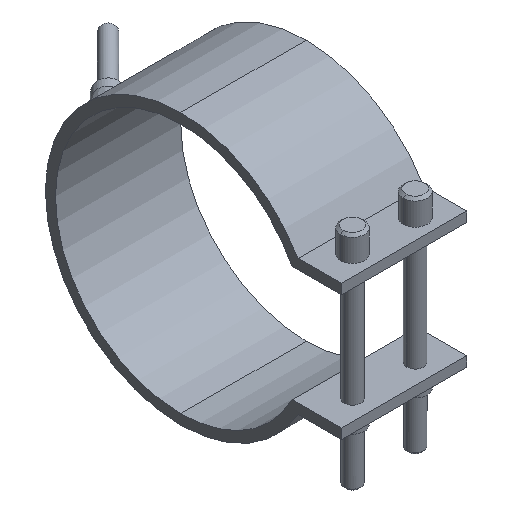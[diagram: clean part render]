
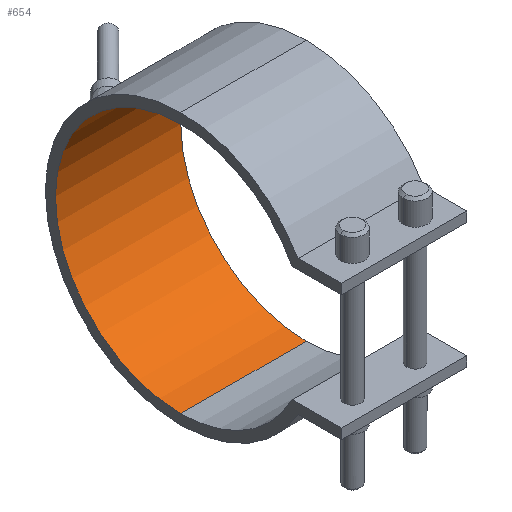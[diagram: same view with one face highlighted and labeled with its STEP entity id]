
A CAD part, isometric view. The second image highlights one B-rep face of the part: STEP entity #654.
In plain terms, the highlighted cylindrical face has radius 50 mm (diameter 100 mm), a partial arc.
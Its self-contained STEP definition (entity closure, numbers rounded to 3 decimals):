
#336=CARTESIAN_POINT('Vertex',(25.,0.,50.)) ;
#341=CARTESIAN_POINT('Axis2P3D Location',(25.,0.,0.)) ;
#345=CARTESIAN_POINT('Vertex',(25.,0.,-50.)) ;
#452=CARTESIAN_POINT('Vertex',(-25.,0.,-50.)) ;
#455=CARTESIAN_POINT('Axis2P3D Location',(-25.,0.,0.)) ;
#459=CARTESIAN_POINT('Vertex',(-25.,0.,50.)) ;
#626=CARTESIAN_POINT('Line Origine',(25.,0.,50.)) ;
#638=CARTESIAN_POINT('Axis2P3D Location',(25.,0.,0.)) ;
#643=CARTESIAN_POINT('Line Origine',(25.,0.,-50.)) ;
#342=DIRECTION('Axis2P3D Direction',(1.,0.,0.)) ;
#456=DIRECTION('Axis2P3D Direction',(1.,0.,0.)) ;
#627=DIRECTION('Vector Direction',(1.,0.,0.)) ;
#639=DIRECTION('Axis2P3D Direction',(1.,0.,-0.)) ;
#640=DIRECTION('Axis2P3D XDirection',(0.,0.,-1.)) ;
#644=DIRECTION('Vector Direction',(1.,0.,0.)) ;
#343=AXIS2_PLACEMENT_3D('Circle Axis2P3D',#341,#342,$) ;
#457=AXIS2_PLACEMENT_3D('Circle Axis2P3D',#455,#456,$) ;
#641=AXIS2_PLACEMENT_3D('Cylinder Axis2P3D',#638,#639,#640) ;
#649=ORIENTED_EDGE('',*,*,#347,.T.) ;
#650=ORIENTED_EDGE('',*,*,#630,.T.) ;
#651=ORIENTED_EDGE('',*,*,#461,.F.) ;
#652=ORIENTED_EDGE('',*,*,#647,.T.) ;
#628=VECTOR('Line Direction',#627,1.) ;
#645=VECTOR('Line Direction',#644,1.) ;
#654=ADVANCED_FACE('29100050',(#653),#642,.F.) ;
#344=CIRCLE('generated circle',#343,50.) ;
#458=CIRCLE('generated circle',#457,50.) ;
#642=CYLINDRICAL_SURFACE('generated cylinder',#641,50.) ;
#347=EDGE_CURVE('',#346,#337,#344,.T.) ;
#461=EDGE_CURVE('',#453,#460,#458,.T.) ;
#630=EDGE_CURVE('',#337,#460,#629,.F.) ;
#647=EDGE_CURVE('',#453,#346,#646,.T.) ;
#648=EDGE_LOOP('',(#649,#650,#651,#652)) ;
#653=FACE_OUTER_BOUND('',#648,.T.) ;
#629=LINE('Line',#626,#628) ;
#646=LINE('Line',#643,#645) ;
#337=VERTEX_POINT('',#336) ;
#346=VERTEX_POINT('',#345) ;
#453=VERTEX_POINT('',#452) ;
#460=VERTEX_POINT('',#459) ;
